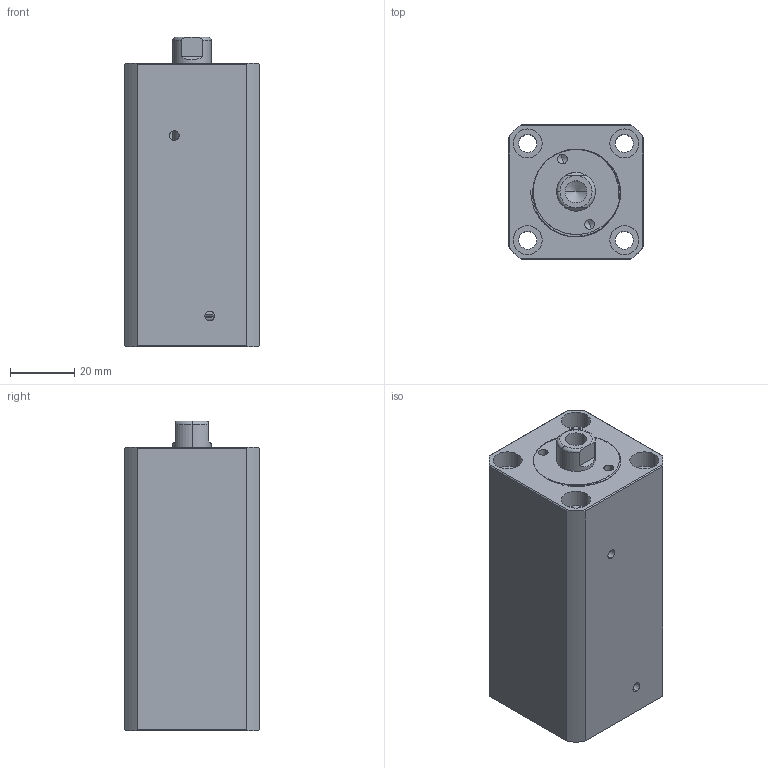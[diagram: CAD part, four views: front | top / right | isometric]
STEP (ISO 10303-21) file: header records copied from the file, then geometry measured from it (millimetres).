
FILE_DESCRIPTION (( 'STEP AP214' ), '1' );
FILE_NAME ('chtb-sdmb20x45n_asm.STEP', '2018-05-18T08:27:52', ( 'Windows' ), ( 'Microsoft' ), 'SwSTEP 2.0', 'SolidWorks 2015', '' );
FILE_SCHEMA (( 'AUTOMOTIVE_DESIGN' ));
Length unit declared in the file: millimetre
Products named in the file (4): chtb-sdmb20x45n_asm; QG_3; CHTB-SDMB20X45NHSG; CHTB-SDMB20X45NBT
Assembly tree (3 placements, depth 2):
  chtb-sdmb20x45n_asm
    CHTB-SDMB20X45NBT
    CHTB-SDMB20X45NHSG
    QG_3
Bounding box: 42 x 42 x 96 mm (x, y, z)
Volume: 131400.3 mm3; surface area: 39518.1 mm2
Topology: 3 solids, 3 shells, 201 faces, 535 edges, 354 vertices
Faces by surface type: cylinder 106, plane 43, torus 25, bspline 21, cone 6
Entity records: 11558 total; most frequent: CARTESIAN_POINT 6663, ORIENTED_EDGE 1058, DIRECTION 922, EDGE_CURVE 529, AXIS2_PLACEMENT_3D 388, VERTEX_POINT 354, EDGE_LOOP 239, CIRCLE 202
